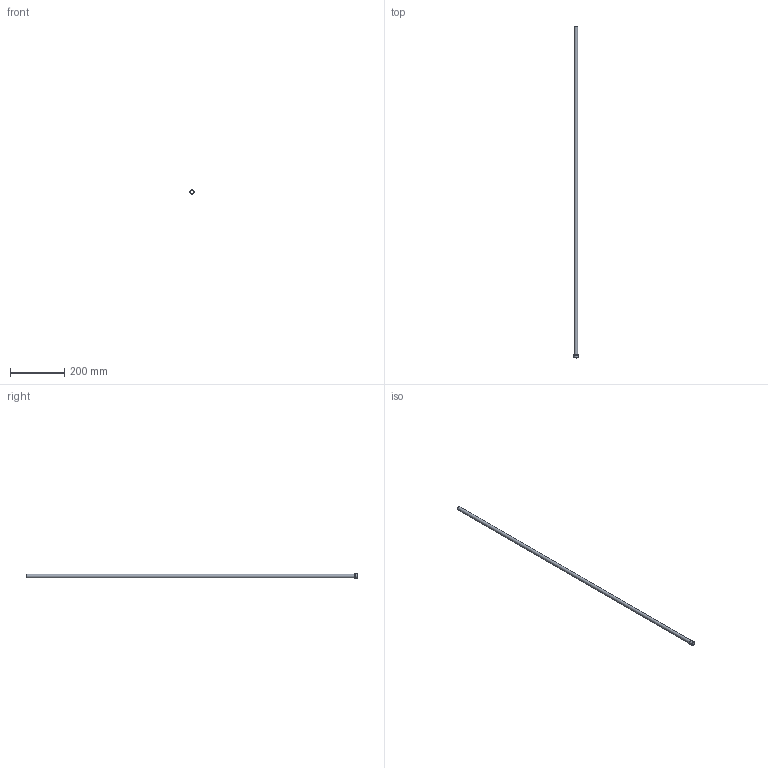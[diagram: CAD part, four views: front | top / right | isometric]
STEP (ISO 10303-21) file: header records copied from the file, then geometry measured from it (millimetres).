
FILE_DESCRIPTION(/* description */ (''),/* implementation_level */ '2;1');
FILE_NAME(/* name */ 'C:/Users/drich/Desktop/JHF500T-48 v1.step',/* time_stamp */ '2020-01-02T20:09:28-06:00',/* author */ (''),/* organization */ (''),/* preprocessor_version */ 'ST-DEVELOPER v18',/* originating_system */ 'Autodesk Translation Framework v8.12.0.6',/* authorisation */ '');
FILE_SCHEMA (('AUTOMOTIVE_DESIGN { 1 0 10303 214 3 1 1 }'));
Length unit declared in the file: inch
Products named in the file (1): JHF500T-48
Bounding box: 15.93 x 1219.2 x 15.93 mm (x, y, z)
Volume: 33587.5 mm3; surface area: 92150.7 mm2
Topology: 1 solids, 1 shells, 10 faces, 24 edges, 18 vertices
Faces by surface type: cylinder 4, plane 4, cone 1, torus 1
Full cylindrical faces by diameter (mm): 11.278 x1, 12.7 x1, 15.763 x1, 15.926 x1
Entity records: 354 total; most frequent: DIRECTION 65, CARTESIAN_POINT 53, ORIENTED_EDGE 48, AXIS2_PLACEMENT_3D 30, EDGE_CURVE 24, CIRCLE 19, VERTEX_POINT 18, EDGE_LOOP 14
